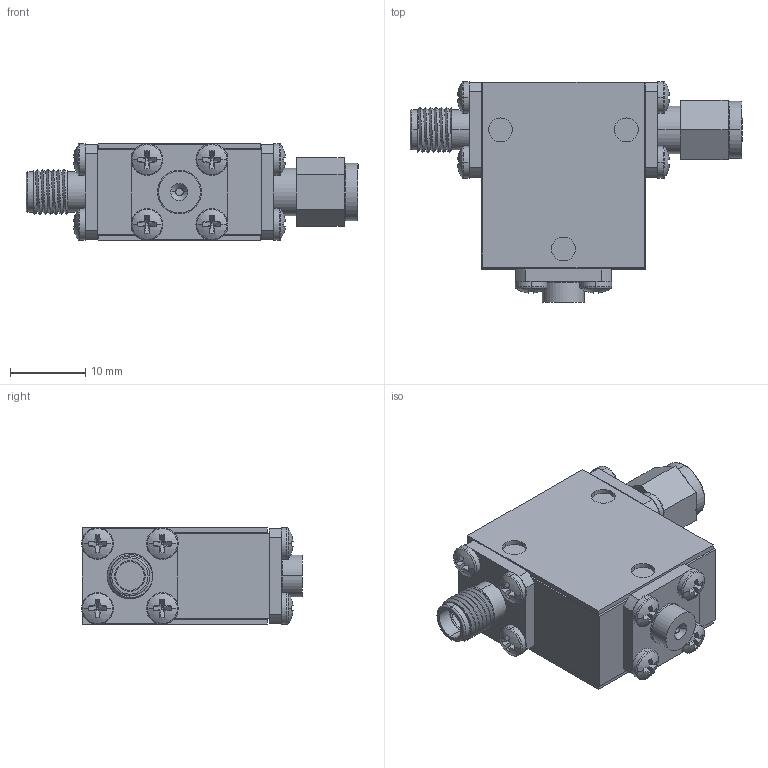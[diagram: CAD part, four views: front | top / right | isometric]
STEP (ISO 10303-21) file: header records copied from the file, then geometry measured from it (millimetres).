
FILE_DESCRIPTION (( 'STEP AP214' ), '1' );
FILE_NAME ('Package 4-2 Iso FM - Cryo Unshielded.STEP', '2023-12-20T00:20:12', ( '' ), ( '' ), 'SwSTEP 2.0', 'SolidWorks 2016', '' );
FILE_SCHEMA (( 'AUTOMOTIVE_DESIGN' ));
Length unit declared in the file: inch
Products named in the file (7): Delta SMA-Female 0.500 flange Threaded; pan cross head_ai_CR-PHMS 0.086-56x0.125x0.125-N; 030013-1A Same Base thickness as connectors; WR052; Package Size 4; Package 4-2 Iso FM - Cryo Unshielded; Delta SMA-Male
Assembly tree (17 placements, depth 2):
  Package 4-2 Iso FM - Cryo Unshielded
    Package Size 4
    Delta SMA-Female 0.500 flange Threaded
    pan cross head_ai_CR-PHMS 0.086-56x0.125x0.125-N  x12
    Delta SMA-Male
    030013-1A Same Base thickness as connectors
    WR052
Bounding box: 44.25 x 29.43 x 12.88 mm (x, y, z)
Volume: 8257.1 mm3; surface area: 7624.6 mm2
Topology: 17 solids, 17 shells, 430 faces, 985 edges, 609 vertices
Faces by surface type: plane 237, cylinder 128, torus 34, sphere 24, cone 4, bspline 3
Entity records: 6509 total; most frequent: CARTESIAN_POINT 1650, DIRECTION 1039, ORIENTED_EDGE 870, EDGE_CURVE 435, AXIS2_PLACEMENT_3D 418, VERTEX_POINT 279, EDGE_LOOP 236, CIRCLE 224
